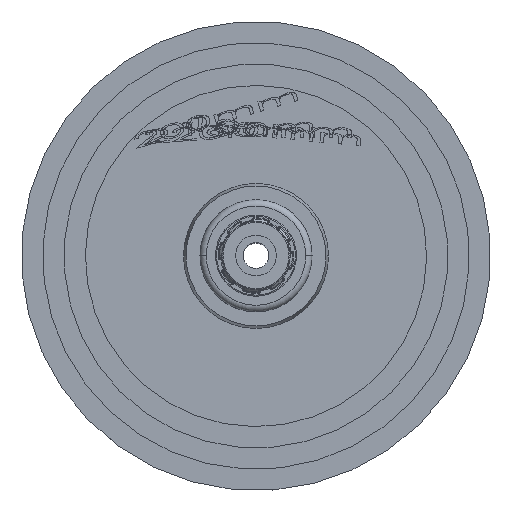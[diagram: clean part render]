
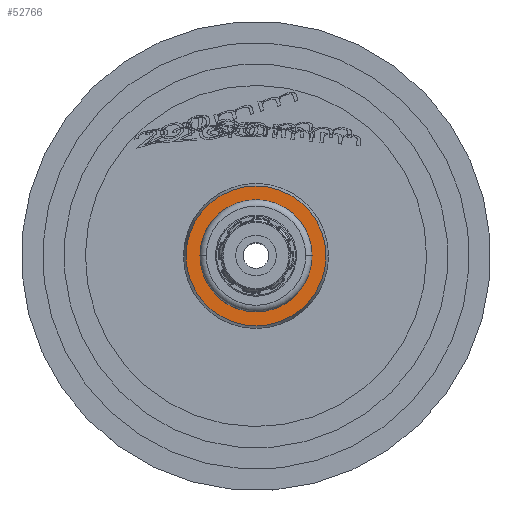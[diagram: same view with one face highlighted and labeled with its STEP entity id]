
A CAD part, top view. The second image highlights one B-rep face of the part: STEP entity #52766.
In plain terms, the highlighted planar face has unit normal (0, 0, 1).
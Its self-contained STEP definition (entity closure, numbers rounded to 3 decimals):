
#9883 = DIRECTION ( 'NONE',  ( 1., 0., 0. ) ) ;
#9885 = DIRECTION ( 'NONE',  ( 0., 0., 1. ) ) ;
#9887 = AXIS2_PLACEMENT_3D ( 'NONE', #9900, #9885, #9883 ) ;
#9888 = CIRCLE ( 'NONE', #9887, 21.538 ) ;
#9900 = CARTESIAN_POINT ( 'NONE',  ( 0., 0., 15.5 ) ) ;
#10100 = DIRECTION ( 'NONE',  ( -1., 0., 0. ) ) ;
#10102 = DIRECTION ( 'NONE',  ( 0., 0., -1. ) ) ;
#10104 = CARTESIAN_POINT ( 'NONE',  ( 0., 32.794, 15.5 ) ) ;
#10106 = AXIS2_PLACEMENT_3D ( 'NONE', #10104, #10102, #10100 ) ;
#10107 = PLANE ( 'NONE',  #10106 ) ;
#10110 = FACE_OUTER_BOUND ( 'NONE', #52395, .T. ) ;
#10111 = FACE_BOUND ( 'NONE', #52637, .T. ) ;
#14570 = DIRECTION ( 'NONE',  ( 1., 0., 0. ) ) ;
#14572 = DIRECTION ( 'NONE',  ( 0., 0., 1. ) ) ;
#14574 = CARTESIAN_POINT ( 'NONE',  ( 0., 0., 15.5 ) ) ;
#14575 = AXIS2_PLACEMENT_3D ( 'NONE', #14574, #14572, #14570 ) ;
#14577 = CIRCLE ( 'NONE', #14575, 32.794 ) ;
#15493 = CARTESIAN_POINT ( 'NONE',  ( -32.794, 0., 15.5 ) ) ;
#15494 = CARTESIAN_POINT ( 'NONE',  ( 32.794, 0., 15.5 ) ) ;
#15497 = DIRECTION ( 'NONE',  ( 1., 0., 0. ) ) ;
#15499 = DIRECTION ( 'NONE',  ( 0., 0., 1. ) ) ;
#15501 = CARTESIAN_POINT ( 'NONE',  ( 0., 0., 15.5 ) ) ;
#15502 = AXIS2_PLACEMENT_3D ( 'NONE', #15501, #15499, #15497 ) ;
#15514 = CIRCLE ( 'NONE', #15502, 32.794 ) ;
#15534 = CARTESIAN_POINT ( 'NONE',  ( 21.538, 0., 15.5 ) ) ;
#15536 = DIRECTION ( 'NONE',  ( 1., 0., 0. ) ) ;
#15537 = DIRECTION ( 'NONE',  ( 0., 0., 1. ) ) ;
#15539 = CARTESIAN_POINT ( 'NONE',  ( 0., 0., 15.5 ) ) ;
#15541 = AXIS2_PLACEMENT_3D ( 'NONE', #15539, #15537, #15536 ) ;
#15543 = CIRCLE ( 'NONE', #15541, 21.538 ) ;
#15856 = CARTESIAN_POINT ( 'NONE',  ( -21.538, 0., 15.5 ) ) ;
#52395 = EDGE_LOOP ( 'NONE', ( #61004, #61185 ) ) ;
#52543 = ORIENTED_EDGE ( 'NONE', *, *, #55532, .F. ) ;
#52587 = EDGE_CURVE ( 'NONE', #55534, #55675, #9888, .T. ) ;
#52592 = ORIENTED_EDGE ( 'NONE', *, *, #52587, .F. ) ;
#52637 = EDGE_LOOP ( 'NONE', ( #52592, #52543 ) ) ;
#52766 = ADVANCED_FACE ( 'NONE', ( #10111, #10110 ), #10107, .F. ) ;
#55120 = EDGE_CURVE ( 'NONE', #55548, #55547, #14577, .T. ) ;
#55532 = EDGE_CURVE ( 'NONE', #55675, #55534, #15543, .T. ) ;
#55534 = VERTEX_POINT ( 'NONE', #15534 ) ;
#55545 = EDGE_CURVE ( 'NONE', #55547, #55548, #15514, .T. ) ;
#55547 = VERTEX_POINT ( 'NONE', #15494 ) ;
#55548 = VERTEX_POINT ( 'NONE', #15493 ) ;
#55675 = VERTEX_POINT ( 'NONE', #15856 ) ;
#61004 = ORIENTED_EDGE ( 'NONE', *, *, #55120, .T. ) ;
#61185 = ORIENTED_EDGE ( 'NONE', *, *, #55545, .T. ) ;
